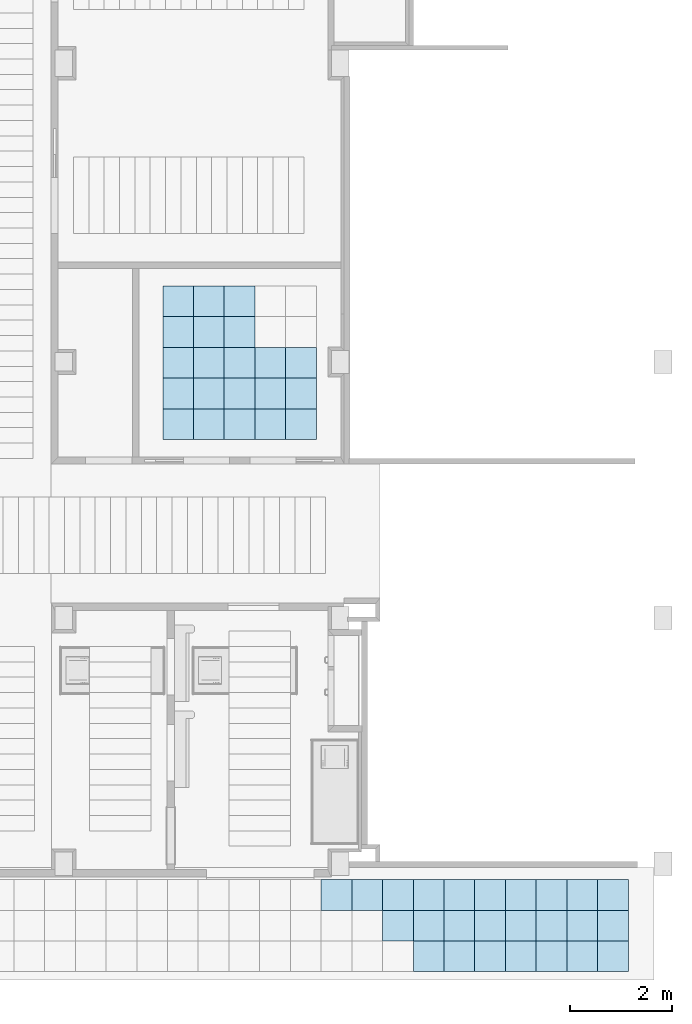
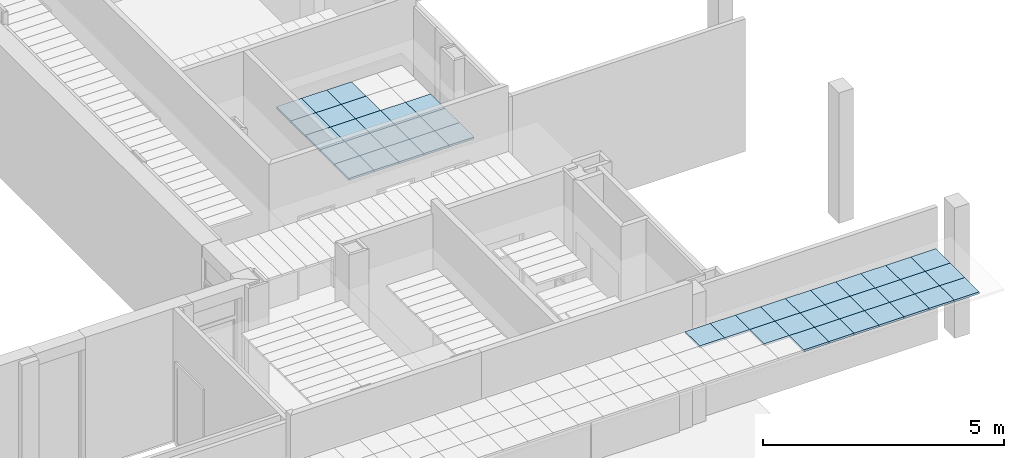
# One storey, part 21 of 60: 46 slabs.
"""IFC2X3 building model written with IfcOpenShell, lengths in millimetres."""

from ifc_helpers import new_model, entity, si_unit, converted_unit, derived_unit, money_unit, direction, frame, origin_with_axes, place, context, subcontext, project, spatial, polyline, outline, extrude, material, layer, layer_set, layer_usage, type_object, element, save


model = new_model("IFC2X3")

# Units and contexts
model_context = context("Model", 3, precision=0.01, world=origin_with_axes(), true_north=direction((0.0, 1.0)))
body_context = subcontext(model_context, "Body", "Model", "MODEL_VIEW")
ifc_project = project(units=[si_unit("LENGTHUNIT", "METRE", prefix="MILLI"), si_unit("AREAUNIT", "SQUARE_METRE"), si_unit("VOLUMEUNIT", "CUBIC_METRE"), converted_unit("PLANEANGLEUNIT", "DEGREE", entity("IfcPlaneAngleMeasure", 0.0174532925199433), si_unit("PLANEANGLEUNIT", "RADIAN"), dimensions=[0, 0, 0, 0, 0, 0, 0]), money_unit("USD"), converted_unit("TIMEUNIT", "Year", entity("IfcTimeMeasure", 31557600.0), si_unit("TIMEUNIT", "SECOND"), dimensions=[0, 0, 1, 0, 0, 0, 0]), si_unit("MASSUNIT", "GRAM", prefix="KILO"), si_unit("THERMODYNAMICTEMPERATUREUNIT", "DEGREE_CELSIUS"), si_unit("LUMINOUSINTENSITYUNIT", "LUMEN"), si_unit("ENERGYUNIT", "JOULE", prefix="MEGA"), derived_unit("THERMALCONDUCTANCEUNIT", [(si_unit("POWERUNIT", "WATT"), 1), (si_unit("LENGTHUNIT", "METRE"), -1), (si_unit("THERMODYNAMICTEMPERATUREUNIT", "KELVIN"), -1)]), derived_unit("SPECIFICHEATCAPACITYUNIT", [(si_unit("ENERGYUNIT", "JOULE"), 1), (si_unit("MASSUNIT", "GRAM", prefix="KILO"), -1), (si_unit("THERMODYNAMICTEMPERATUREUNIT", "KELVIN"), -1)]), derived_unit("MASSDENSITYUNIT", [(si_unit("MASSUNIT", "GRAM", prefix="KILO"), 1), (si_unit("VOLUMEUNIT", "CUBIC_METRE"), -1)])], contexts=[model_context])

# Site, building, storey
site_placement = place(None, origin_with_axes())
site = spatial("IfcSite", under=ifc_project, at=site_placement, Name="Sitio", CompositionType="ELEMENT")
building_placement = place(site_placement, origin_with_axes())
building = spatial("IfcBuilding", under=site, at=building_placement, Name="Construcción", CompositionType="ELEMENT")
storey_placement = place(building_placement, frame((0.0, 0.0, 3650.0), z_axis=(0.0, 0.0, 1.0), x_axis=(1.0, 0.0, 0.0)))
storey = spatial("IfcBuildingStorey", under=building, at=storey_placement, Name="PLANTA 2ª", CompositionType="ELEMENT", Elevation=3650.0)

# Slabs
ifc_material = material(Name="ARQ_CE217_Armstrong 60x60")
ifc_layer = layer(ifc_material, 50.0, ventilated="UNKNOWN")
ifc_layer_set = layer_set([ifc_layer], Name="ARQ_CE217_Armstrong 60x60 50")
ifc_layer_usage_1 = layer_usage(ifc_layer_set, "AXIS3", "NEGATIVE", 50.0)
slab_type = type_object("IfcSlabType", Name="ARQ_CE217_Armstrong 60x60 50", PredefinedType="NOTDEFINED")
slab_1_placement = place(storey_placement, frame((4938.419695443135, -8731.372767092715, 2250.0), z_axis=(0.0, 0.0, 1.0), x_axis=(1.0, 0.0, 0.0)))
element("IfcSlab", 1, at=slab_1_placement, inside=storey, type_object=slab_type, material=ifc_layer_usage_1, Name="SLA - 026", PredefinedType="NOTDEFINED", context=body_context, shape_type="SweptSolid", body=[
    extrude(outline(polyline([(0.0, 0.0), (600.000000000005, 0.0), (600.000000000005, 600.000000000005), (0.0, 600.000000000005), (0.0, 0.0)])), frame((0.0, 0.0, -50.0), z_axis=(0.0, 0.0, 1.0), x_axis=(1.0, 0.0, 0.0)), (0.0, 0.0, 1.0), 50.0),
])
ifc_layer_usage_2 = layer_usage(ifc_layer_set, "AXIS3", "NEGATIVE", 50.0)
slab_2_placement = place(storey_placement, frame((3738.419695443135, -6931.372767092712, 2250.0), z_axis=(0.0, 0.0, 1.0), x_axis=(1.0, 0.0, 0.0)))
element("IfcSlab", 2, at=slab_2_placement, inside=storey, type_object=slab_type, material=ifc_layer_usage_2, Name="SLA - 026", PredefinedType="NOTDEFINED", context=body_context, shape_type="SweptSolid", body=[
    extrude(outline(polyline([(0.0, 0.0), (600.0000000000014, 0.0), (600.0000000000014, 600.0000000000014), (0.0, 600.0000000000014), (0.0, 0.0)])), frame((0.0, 0.0, -50.0), z_axis=(0.0, 0.0, 1.0), x_axis=(1.0, 0.0, 0.0)), (0.0, 0.0, 1.0), 50.0),
])
ifc_layer_usage_3 = layer_usage(ifc_layer_set, "AXIS3", "NEGATIVE", 50.0)
slab_3_placement = place(storey_placement, frame((3138.419695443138, -6931.372767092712, 2250.0), z_axis=(0.0, 0.0, 1.0), x_axis=(1.0, 0.0, 0.0)))
element("IfcSlab", 3, at=slab_3_placement, inside=storey, type_object=slab_type, material=ifc_layer_usage_3, Name="SLA - 026", PredefinedType="NOTDEFINED", context=body_context, shape_type="SweptSolid", body=[
    extrude(outline(polyline([(0.0, 0.0), (600.0000000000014, 0.0), (600.0000000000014, 600.0000000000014), (0.0, 600.0000000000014), (0.0, 0.0)])), frame((0.0, 0.0, -50.0), z_axis=(0.0, 0.0, 1.0), x_axis=(1.0, 0.0, 0.0)), (0.0, 0.0, 1.0), 50.0),
])
ifc_layer_usage_4 = layer_usage(ifc_layer_set, "AXIS3", "NEGATIVE", 50.0)
slab_4_placement = place(storey_placement, frame((4338.419695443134, -8731.372767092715, 2250.0), z_axis=(0.0, 0.0, 1.0), x_axis=(1.0, 0.0, 0.0)))
element("IfcSlab", 4, at=slab_4_placement, inside=storey, type_object=slab_type, material=ifc_layer_usage_4, Name="SLA - 026", PredefinedType="NOTDEFINED", context=body_context, shape_type="SweptSolid", body=[
    extrude(outline(polyline([(0.0, 0.0), (600.0000000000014, 0.0), (600.0000000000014, 600.000000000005), (0.0, 600.000000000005), (0.0, 0.0)])), frame((0.0, 0.0, -50.0), z_axis=(0.0, 0.0, 1.0), x_axis=(1.0, 0.0, 0.0)), (0.0, 0.0, 1.0), 50.0),
])
ifc_layer_usage_5 = layer_usage(ifc_layer_set, "AXIS3", "NEGATIVE", 50.0)
slab_5_placement = place(storey_placement, frame((4338.419695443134, -7531.372767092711, 2250.0), z_axis=(0.0, 0.0, 1.0), x_axis=(1.0, 0.0, 0.0)))
element("IfcSlab", 5, at=slab_5_placement, inside=storey, type_object=slab_type, material=ifc_layer_usage_5, Name="SLA - 026", PredefinedType="NOTDEFINED", context=body_context, shape_type="SweptSolid", body=[
    extrude(outline(polyline([(0.0, 0.0), (600.0000000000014, 0.0), (600.0000000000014, 599.9999999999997), (0.0, 599.9999999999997), (0.0, 0.0)])), frame((0.0, 0.0, -50.0), z_axis=(0.0, 0.0, 1.0), x_axis=(1.0, 0.0, 0.0)), (0.0, 0.0, 1.0), 50.0),
])
ifc_layer_usage_6 = layer_usage(ifc_layer_set, "AXIS3", "NEGATIVE", 50.0)
slab_6_placement = place(storey_placement, frame((4338.419695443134, -8131.37276709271, 2250.0), z_axis=(0.0, 0.0, 1.0), x_axis=(1.0, 0.0, 0.0)))
element("IfcSlab", 6, at=slab_6_placement, inside=storey, type_object=slab_type, material=ifc_layer_usage_6, Name="SLA - 026", PredefinedType="NOTDEFINED", context=body_context, shape_type="SweptSolid", body=[
    extrude(outline(polyline([(0.0, 0.0), (600.0000000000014, 0.0), (600.0000000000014, 599.9999999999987), (0.0, 599.9999999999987), (0.0, 0.0)])), frame((0.0, 0.0, -50.0), z_axis=(0.0, 0.0, 1.0), x_axis=(1.0, 0.0, 0.0)), (0.0, 0.0, 1.0), 50.0),
])
ifc_layer_usage_7 = layer_usage(ifc_layer_set, "AXIS3", "NEGATIVE", 50.0)
slab_7_placement = place(storey_placement, frame((4938.419695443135, -7531.372767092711, 2250.0), z_axis=(0.0, 0.0, 1.0), x_axis=(1.0, 0.0, 0.0)))
element("IfcSlab", 7, at=slab_7_placement, inside=storey, type_object=slab_type, material=ifc_layer_usage_7, Name="SLA - 026", PredefinedType="NOTDEFINED", context=body_context, shape_type="SweptSolid", body=[
    extrude(outline(polyline([(0.0, 0.0), (600.000000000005, 0.0), (600.000000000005, 599.9999999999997), (0.0, 599.9999999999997), (0.0, 0.0)])), frame((0.0, 0.0, -50.0), z_axis=(0.0, 0.0, 1.0), x_axis=(1.0, 0.0, 0.0)), (0.0, 0.0, 1.0), 50.0),
])
ifc_layer_usage_8 = layer_usage(ifc_layer_set, "AXIS3", "NEGATIVE", 50.0)
slab_8_placement = place(storey_placement, frame((4938.419695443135, -8131.37276709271, 2250.0), z_axis=(0.0, 0.0, 1.0), x_axis=(1.0, 0.0, 0.0)))
element("IfcSlab", 8, at=slab_8_placement, inside=storey, type_object=slab_type, material=ifc_layer_usage_8, Name="SLA - 026", PredefinedType="NOTDEFINED", context=body_context, shape_type="SweptSolid", body=[
    extrude(outline(polyline([(0.0, 0.0), (600.000000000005, 0.0), (600.000000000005, 599.9999999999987), (0.0, 599.9999999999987), (0.0, 0.0)])), frame((0.0, 0.0, -50.0), z_axis=(0.0, 0.0, 1.0), x_axis=(1.0, 0.0, 0.0)), (0.0, 0.0, 1.0), 50.0),
])
ifc_layer_usage_9 = layer_usage(ifc_layer_set, "AXIS3", "NEGATIVE", 50.0)
slab_9_placement = place(storey_placement, frame((3138.419695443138, -8731.372767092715, 2250.0), z_axis=(0.0, 0.0, 1.0), x_axis=(1.0, 0.0, 0.0)))
element("IfcSlab", 9, at=slab_9_placement, inside=storey, type_object=slab_type, material=ifc_layer_usage_9, Name="SLA - 026", PredefinedType="NOTDEFINED", context=body_context, shape_type="SweptSolid", body=[
    extrude(outline(polyline([(0.0, 0.0), (600.0000000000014, 0.0), (600.0000000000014, 600.000000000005), (0.0, 600.000000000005), (0.0, 0.0)])), frame((0.0, 0.0, -50.0), z_axis=(0.0, 0.0, 1.0), x_axis=(1.0, 0.0, 0.0)), (0.0, 0.0, 1.0), 50.0),
])
ifc_layer_usage_10 = layer_usage(ifc_layer_set, "AXIS3", "NEGATIVE", 50.0)
slab_10_placement = place(storey_placement, frame((3738.419695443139, -8131.37276709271, 2250.0), z_axis=(0.0, 0.0, 1.0), x_axis=(1.0, 0.0, 0.0)))
element("IfcSlab", 10, at=slab_10_placement, inside=storey, type_object=slab_type, material=ifc_layer_usage_10, Name="SLA - 026", PredefinedType="NOTDEFINED", context=body_context, shape_type="SweptSolid", body=[
    extrude(outline(polyline([(0.0, 0.0), (599.9999999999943, 0.0), (599.9999999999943, 599.9999999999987), (0.0, 599.9999999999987), (0.0, 0.0)])), frame((0.0, 0.0, -50.0), z_axis=(0.0, 0.0, 1.0), x_axis=(1.0, 0.0, 0.0)), (0.0, 0.0, 1.0), 50.0),
])
ifc_layer_usage_11 = layer_usage(ifc_layer_set, "AXIS3", "NEGATIVE", 50.0)
slab_11_placement = place(storey_placement, frame((2538.419695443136, -8131.37276709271, 2250.0), z_axis=(0.0, 0.0, 1.0), x_axis=(1.0, 0.0, 0.0)))
element("IfcSlab", 11, at=slab_11_placement, inside=storey, type_object=slab_type, material=ifc_layer_usage_11, Name="SLA - 026", PredefinedType="NOTDEFINED", context=body_context, shape_type="SweptSolid", body=[
    extrude(outline(polyline([(0.0, 0.0), (600.0000000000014, 0.0), (600.0000000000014, 599.9999999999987), (0.0, 599.9999999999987), (0.0, 0.0)])), frame((0.0, 0.0, -50.0), z_axis=(0.0, 0.0, 1.0), x_axis=(1.0, 0.0, 0.0)), (0.0, 0.0, 1.0), 50.0),
])
ifc_layer_usage_12 = layer_usage(ifc_layer_set, "AXIS3", "NEGATIVE", 50.0)
slab_12_placement = place(storey_placement, frame((3138.419695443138, -8131.37276709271, 2250.0), z_axis=(0.0, 0.0, 1.0), x_axis=(1.0, 0.0, 0.0)))
element("IfcSlab", 12, at=slab_12_placement, inside=storey, type_object=slab_type, material=ifc_layer_usage_12, Name="SLA - 026", PredefinedType="NOTDEFINED", context=body_context, shape_type="SweptSolid", body=[
    extrude(outline(polyline([(0.0, 0.0), (600.0000000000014, 0.0), (600.0000000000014, 599.9999999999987), (0.0, 599.9999999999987), (0.0, 0.0)])), frame((0.0, 0.0, -50.0), z_axis=(0.0, 0.0, 1.0), x_axis=(1.0, 0.0, 0.0)), (0.0, 0.0, 1.0), 50.0),
])
ifc_layer_usage_13 = layer_usage(ifc_layer_set, "AXIS3", "NEGATIVE", 50.0)
slab_13_placement = place(storey_placement, frame((2538.419695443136, -6931.372767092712, 2250.0), z_axis=(0.0, 0.0, 1.0), x_axis=(1.0, 0.0, 0.0)))
element("IfcSlab", 13, at=slab_13_placement, inside=storey, type_object=slab_type, material=ifc_layer_usage_13, Name="SLA - 026", PredefinedType="NOTDEFINED", context=body_context, shape_type="SweptSolid", body=[
    extrude(outline(polyline([(0.0, 0.0), (600.0000000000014, 0.0), (600.0000000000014, 600.0000000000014), (0.0, 600.0000000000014), (0.0, 0.0)])), frame((0.0, 0.0, -50.0), z_axis=(0.0, 0.0, 1.0), x_axis=(1.0, 0.0, 0.0)), (0.0, 0.0, 1.0), 50.0),
])
ifc_layer_usage_14 = layer_usage(ifc_layer_set, "AXIS3", "NEGATIVE", 50.0)
slab_14_placement = place(storey_placement, frame((2538.419695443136, -7531.372767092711, 2250.0), z_axis=(0.0, 0.0, 1.0), x_axis=(1.0, 0.0, 0.0)))
element("IfcSlab", 14, at=slab_14_placement, inside=storey, type_object=slab_type, material=ifc_layer_usage_14, Name="SLA - 026", PredefinedType="NOTDEFINED", context=body_context, shape_type="SweptSolid", body=[
    extrude(outline(polyline([(0.0, 0.0), (600.0000000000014, 0.0), (600.0000000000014, 599.9999999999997), (0.0, 599.9999999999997), (0.0, 0.0)])), frame((0.0, 0.0, -50.0), z_axis=(0.0, 0.0, 1.0), x_axis=(1.0, 0.0, 0.0)), (0.0, 0.0, 1.0), 50.0),
])
ifc_layer_usage_15 = layer_usage(ifc_layer_set, "AXIS3", "NEGATIVE", 50.0)
slab_15_placement = place(storey_placement, frame((2538.419695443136, -8731.372767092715, 2250.0), z_axis=(0.0, 0.0, 1.0), x_axis=(1.0, 0.0, 0.0)))
element("IfcSlab", 15, at=slab_15_placement, inside=storey, type_object=slab_type, material=ifc_layer_usage_15, Name="SLA - 026", PredefinedType="NOTDEFINED", context=body_context, shape_type="SweptSolid", body=[
    extrude(outline(polyline([(0.0, 0.0), (600.0000000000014, 0.0), (600.0000000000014, 600.000000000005), (0.0, 600.000000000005), (0.0, 0.0)])), frame((0.0, 0.0, -50.0), z_axis=(0.0, 0.0, 1.0), x_axis=(1.0, 0.0, 0.0)), (0.0, 0.0, 1.0), 50.0),
])
ifc_layer_usage_16 = layer_usage(ifc_layer_set, "AXIS3", "NEGATIVE", 50.0)
slab_16_placement = place(storey_placement, frame((3138.419695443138, -7531.372767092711, 2250.0), z_axis=(0.0, 0.0, 1.0), x_axis=(1.0, 0.0, 0.0)))
element("IfcSlab", 16, at=slab_16_placement, inside=storey, type_object=slab_type, material=ifc_layer_usage_16, Name="SLA - 026", PredefinedType="NOTDEFINED", context=body_context, shape_type="SweptSolid", body=[
    extrude(outline(polyline([(0.0, 0.0), (600.0000000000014, 0.0), (600.0000000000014, 599.9999999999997), (0.0, 599.9999999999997), (0.0, 0.0)])), frame((0.0, 0.0, -50.0), z_axis=(0.0, 0.0, 1.0), x_axis=(1.0, 0.0, 0.0)), (0.0, 0.0, 1.0), 50.0),
])
ifc_layer_usage_17 = layer_usage(ifc_layer_set, "AXIS3", "NEGATIVE", 50.0)
slab_17_placement = place(storey_placement, frame((3738.419695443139, -7531.372767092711, 2250.0), z_axis=(0.0, 0.0, 1.0), x_axis=(1.0, 0.0, 0.0)))
element("IfcSlab", 17, at=slab_17_placement, inside=storey, type_object=slab_type, material=ifc_layer_usage_17, Name="SLA - 026", PredefinedType="NOTDEFINED", context=body_context, shape_type="SweptSolid", body=[
    extrude(outline(polyline([(0.0, 0.0), (599.9999999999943, 0.0), (599.9999999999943, 599.9999999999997), (0.0, 599.9999999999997), (0.0, 0.0)])), frame((0.0, 0.0, -50.0), z_axis=(0.0, 0.0, 1.0), x_axis=(1.0, 0.0, 0.0)), (0.0, 0.0, 1.0), 50.0),
])
ifc_layer_usage_18 = layer_usage(ifc_layer_set, "AXIS3", "NEGATIVE", 50.0)
slab_18_placement = place(storey_placement, frame((3738.419695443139, -8731.372767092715, 2250.0), z_axis=(0.0, 0.0, 1.0), x_axis=(1.0, 0.0, 0.0)))
element("IfcSlab", 18, at=slab_18_placement, inside=storey, type_object=slab_type, material=ifc_layer_usage_18, Name="SLA - 026", PredefinedType="NOTDEFINED", context=body_context, shape_type="SweptSolid", body=[
    extrude(outline(polyline([(0.0, 0.0), (599.9999999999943, 0.0), (599.9999999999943, 600.000000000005), (0.0, 600.000000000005), (0.0, 0.0)])), frame((0.0, 0.0, -50.0), z_axis=(0.0, 0.0, 1.0), x_axis=(1.0, 0.0, 0.0)), (0.0, 0.0, 1.0), 50.0),
])
ifc_layer_usage_19 = layer_usage(ifc_layer_set, "AXIS3", "NEGATIVE", 50.0)
slab_19_placement = place(storey_placement, frame((5630.296716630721, -17921.97576450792, 2500.0), z_axis=(0.0, 0.0, 1.0), x_axis=(1.0, 0.0, 0.0)))
element("IfcSlab", 19, at=slab_19_placement, inside=storey, type_object=slab_type, material=ifc_layer_usage_19, Name="SLA - 026", PredefinedType="NOTDEFINED", context=body_context, shape_type="SweptSolid", body=[
    extrude(outline(polyline([(0.0, 0.0), (600.0000000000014, 0.0), (600.0000000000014, 600.0000000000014), (0.0, 600.0000000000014), (0.0, 0.0)])), frame((0.0, 0.0, -50.0), z_axis=(0.0, 0.0, 1.0), x_axis=(1.0, 0.0, 0.0)), (0.0, 0.0, 1.0), 50.0),
])
ifc_layer_usage_20 = layer_usage(ifc_layer_set, "AXIS3", "NEGATIVE", 50.0)
slab_20_placement = place(storey_placement, frame((6830.296716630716, -18521.97576450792, 2500.0), z_axis=(0.0, 0.0, 1.0), x_axis=(1.0, 0.0, 0.0)))
element("IfcSlab", 20, at=slab_20_placement, inside=storey, type_object=slab_type, material=ifc_layer_usage_20, Name="SLA - 026", PredefinedType="NOTDEFINED", context=body_context, shape_type="SweptSolid", body=[
    extrude(outline(polyline([(0.0, 0.0), (600.0000000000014, 0.0), (600.0000000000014, 600.0000000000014), (0.0, 600.0000000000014), (0.0, 0.0)])), frame((0.0, 0.0, -50.0), z_axis=(0.0, 0.0, 1.0), x_axis=(1.0, 0.0, 0.0)), (0.0, 0.0, 1.0), 50.0),
])
ifc_layer_usage_21 = layer_usage(ifc_layer_set, "AXIS3", "NEGATIVE", 50.0)
slab_21_placement = place(storey_placement, frame((6830.296716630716, -17921.97576450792, 2500.0), z_axis=(0.0, 0.0, 1.0), x_axis=(1.0, 0.0, 0.0)))
element("IfcSlab", 21, at=slab_21_placement, inside=storey, type_object=slab_type, material=ifc_layer_usage_21, Name="SLA - 026", PredefinedType="NOTDEFINED", context=body_context, shape_type="SweptSolid", body=[
    extrude(outline(polyline([(0.0, 0.0), (600.0000000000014, 0.0), (600.0000000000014, 600.0000000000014), (0.0, 600.0000000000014), (0.0, 0.0)])), frame((0.0, 0.0, -50.0), z_axis=(0.0, 0.0, 1.0), x_axis=(1.0, 0.0, 0.0)), (0.0, 0.0, 1.0), 50.0),
])
ifc_layer_usage_22 = layer_usage(ifc_layer_set, "AXIS3", "NEGATIVE", 50.0)
slab_22_placement = place(storey_placement, frame((7430.296716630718, -19121.97576450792, 2500.0), z_axis=(0.0, 0.0, 1.0), x_axis=(1.0, 0.0, 0.0)))
element("IfcSlab", 22, at=slab_22_placement, inside=storey, type_object=slab_type, material=ifc_layer_usage_22, Name="SLA - 026", PredefinedType="NOTDEFINED", context=body_context, shape_type="SweptSolid", body=[
    extrude(outline(polyline([(0.0, 0.0), (600.0000000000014, 0.0), (600.0000000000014, 600.0000000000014), (0.0, 600.0000000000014), (0.0, 0.0)])), frame((0.0, 0.0, -50.0), z_axis=(0.0, 0.0, 1.0), x_axis=(1.0, 0.0, 0.0)), (0.0, 0.0, 1.0), 50.0),
])
ifc_layer_usage_23 = layer_usage(ifc_layer_set, "AXIS3", "NEGATIVE", 50.0)
slab_23_placement = place(storey_placement, frame((7430.296716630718, -18521.97576450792, 2500.0), z_axis=(0.0, 0.0, 1.0), x_axis=(1.0, 0.0, 0.0)))
element("IfcSlab", 23, at=slab_23_placement, inside=storey, type_object=slab_type, material=ifc_layer_usage_23, Name="SLA - 026", PredefinedType="NOTDEFINED", context=body_context, shape_type="SweptSolid", body=[
    extrude(outline(polyline([(0.0, 0.0), (600.0000000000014, 0.0), (600.0000000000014, 600.0000000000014), (0.0, 600.0000000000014), (0.0, 0.0)])), frame((0.0, 0.0, -50.0), z_axis=(0.0, 0.0, 1.0), x_axis=(1.0, 0.0, 0.0)), (0.0, 0.0, 1.0), 50.0),
])
ifc_layer_usage_24 = layer_usage(ifc_layer_set, "AXIS3", "NEGATIVE", 50.0)
slab_24_placement = place(storey_placement, frame((7430.296716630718, -17921.97576450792, 2500.0), z_axis=(0.0, 0.0, 1.0), x_axis=(1.0, 0.0, 0.0)))
element("IfcSlab", 24, at=slab_24_placement, inside=storey, type_object=slab_type, material=ifc_layer_usage_24, Name="SLA - 026", PredefinedType="NOTDEFINED", context=body_context, shape_type="SweptSolid", body=[
    extrude(outline(polyline([(0.0, 0.0), (600.0000000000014, 0.0), (600.0000000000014, 600.0000000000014), (0.0, 600.0000000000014), (0.0, 0.0)])), frame((0.0, 0.0, -50.0), z_axis=(0.0, 0.0, 1.0), x_axis=(1.0, 0.0, 0.0)), (0.0, 0.0, 1.0), 50.0),
])
ifc_layer_usage_25 = layer_usage(ifc_layer_set, "AXIS3", "NEGATIVE", 50.0)
slab_25_placement = place(storey_placement, frame((6230.296716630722, -17921.97576450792, 2500.0), z_axis=(0.0, 0.0, 1.0), x_axis=(1.0, 0.0, 0.0)))
element("IfcSlab", 25, at=slab_25_placement, inside=storey, type_object=slab_type, material=ifc_layer_usage_25, Name="SLA - 026", PredefinedType="NOTDEFINED", context=body_context, shape_type="SweptSolid", body=[
    extrude(outline(polyline([(0.0, 0.0), (600.0000000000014, 0.0), (600.0000000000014, 600.0000000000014), (0.0, 600.0000000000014), (0.0, 0.0)])), frame((0.0, 0.0, -50.0), z_axis=(0.0, 0.0, 1.0), x_axis=(1.0, 0.0, 0.0)), (0.0, 0.0, 1.0), 50.0),
])
ifc_layer_usage_26 = layer_usage(ifc_layer_set, "AXIS3", "NEGATIVE", 50.0)
slab_26_placement = place(storey_placement, frame((8030.296716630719, -19121.97576450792, 2500.0), z_axis=(0.0, 0.0, 1.0), x_axis=(1.0, 0.0, 0.0)))
element("IfcSlab", 26, at=slab_26_placement, inside=storey, type_object=slab_type, material=ifc_layer_usage_26, Name="SLA - 026", PredefinedType="NOTDEFINED", context=body_context, shape_type="SweptSolid", body=[
    extrude(outline(polyline([(0.0, 0.0), (600.0000000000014, 0.0), (600.0000000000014, 600.0000000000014), (0.0, 600.0000000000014), (0.0, 0.0)])), frame((0.0, 0.0, -50.0), z_axis=(0.0, 0.0, 1.0), x_axis=(1.0, 0.0, 0.0)), (0.0, 0.0, 1.0), 50.0),
])
ifc_layer_usage_27 = layer_usage(ifc_layer_set, "AXIS3", "NEGATIVE", 50.0)
slab_27_placement = place(storey_placement, frame((8030.296716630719, -18521.97576450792, 2500.0), z_axis=(0.0, 0.0, 1.0), x_axis=(1.0, 0.0, 0.0)))
element("IfcSlab", 27, at=slab_27_placement, inside=storey, type_object=slab_type, material=ifc_layer_usage_27, Name="SLA - 026", PredefinedType="NOTDEFINED", context=body_context, shape_type="SweptSolid", body=[
    extrude(outline(polyline([(0.0, 0.0), (600.0000000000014, 0.0), (600.0000000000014, 600.0000000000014), (0.0, 600.0000000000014), (0.0, 0.0)])), frame((0.0, 0.0, -50.0), z_axis=(0.0, 0.0, 1.0), x_axis=(1.0, 0.0, 0.0)), (0.0, 0.0, 1.0), 50.0),
])
ifc_layer_usage_28 = layer_usage(ifc_layer_set, "AXIS3", "NEGATIVE", 50.0)
slab_28_placement = place(storey_placement, frame((8030.296716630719, -17921.97576450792, 2500.0), z_axis=(0.0, 0.0, 1.0), x_axis=(1.0, 0.0, 0.0)))
element("IfcSlab", 28, at=slab_28_placement, inside=storey, type_object=slab_type, material=ifc_layer_usage_28, Name="SLA - 026", PredefinedType="NOTDEFINED", context=body_context, shape_type="SweptSolid", body=[
    extrude(outline(polyline([(0.0, 0.0), (600.0000000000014, 0.0), (600.0000000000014, 600.0000000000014), (0.0, 600.0000000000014), (0.0, 0.0)])), frame((0.0, 0.0, -50.0), z_axis=(0.0, 0.0, 1.0), x_axis=(1.0, 0.0, 0.0)), (0.0, 0.0, 1.0), 50.0),
])
ifc_layer_usage_29 = layer_usage(ifc_layer_set, "AXIS3", "NEGATIVE", 50.0)
slab_29_placement = place(storey_placement, frame((8630.29671663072, -18521.97576450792, 2500.0), z_axis=(0.0, 0.0, 1.0), x_axis=(1.0, 0.0, 0.0)))
element("IfcSlab", 29, at=slab_29_placement, inside=storey, type_object=slab_type, material=ifc_layer_usage_29, Name="SLA - 026", PredefinedType="NOTDEFINED", context=body_context, shape_type="SweptSolid", body=[
    extrude(outline(polyline([(0.0, 0.0), (600.0000000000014, 0.0), (600.0000000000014, 600.0000000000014), (0.0, 600.0000000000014), (0.0, 0.0)])), frame((0.0, 0.0, -50.0), z_axis=(0.0, 0.0, 1.0), x_axis=(1.0, 0.0, 0.0)), (0.0, 0.0, 1.0), 50.0),
])
ifc_layer_usage_30 = layer_usage(ifc_layer_set, "AXIS3", "NEGATIVE", 50.0)
slab_30_placement = place(storey_placement, frame((8630.29671663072, -19121.97576450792, 2500.0), z_axis=(0.0, 0.0, 1.0), x_axis=(1.0, 0.0, 0.0)))
element("IfcSlab", 30, at=slab_30_placement, inside=storey, type_object=slab_type, material=ifc_layer_usage_30, Name="SLA - 026", PredefinedType="NOTDEFINED", context=body_context, shape_type="SweptSolid", body=[
    extrude(outline(polyline([(0.0, 0.0), (600.0000000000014, 0.0), (600.0000000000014, 600.0000000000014), (0.0, 600.0000000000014), (0.0, 0.0)])), frame((0.0, 0.0, -50.0), z_axis=(0.0, 0.0, 1.0), x_axis=(1.0, 0.0, 0.0)), (0.0, 0.0, 1.0), 50.0),
])
ifc_layer_usage_31 = layer_usage(ifc_layer_set, "AXIS3", "NEGATIVE", 50.0)
slab_31_placement = place(storey_placement, frame((9230.296716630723, -19121.97576450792, 2500.0), z_axis=(0.0, 0.0, 1.0), x_axis=(1.0, 0.0, 0.0)))
element("IfcSlab", 31, at=slab_31_placement, inside=storey, type_object=slab_type, material=ifc_layer_usage_31, Name="SLA - 026", PredefinedType="NOTDEFINED", context=body_context, shape_type="SweptSolid", body=[
    extrude(outline(polyline([(0.0, 0.0), (600.0000000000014, 0.0), (600.0000000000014, 600.0000000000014), (0.0, 600.0000000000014), (0.0, 0.0)])), frame((0.0, 0.0, -50.0), z_axis=(0.0, 0.0, 1.0), x_axis=(1.0, 0.0, 0.0)), (0.0, 0.0, 1.0), 50.0),
])
ifc_layer_usage_32 = layer_usage(ifc_layer_set, "AXIS3", "NEGATIVE", 50.0)
slab_32_placement = place(storey_placement, frame((9230.296716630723, -18521.97576450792, 2500.0), z_axis=(0.0, 0.0, 1.0), x_axis=(1.0, 0.0, 0.0)))
element("IfcSlab", 32, at=slab_32_placement, inside=storey, type_object=slab_type, material=ifc_layer_usage_32, Name="SLA - 026", PredefinedType="NOTDEFINED", context=body_context, shape_type="SweptSolid", body=[
    extrude(outline(polyline([(0.0, 0.0), (600.0000000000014, 0.0), (600.0000000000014, 600.0000000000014), (0.0, 600.0000000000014), (0.0, 0.0)])), frame((0.0, 0.0, -50.0), z_axis=(0.0, 0.0, 1.0), x_axis=(1.0, 0.0, 0.0)), (0.0, 0.0, 1.0), 50.0),
])
ifc_layer_usage_33 = layer_usage(ifc_layer_set, "AXIS3", "NEGATIVE", 50.0)
slab_33_placement = place(storey_placement, frame((8630.29671663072, -17921.97576450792, 2500.0), z_axis=(0.0, 0.0, 1.0), x_axis=(1.0, 0.0, 0.0)))
element("IfcSlab", 33, at=slab_33_placement, inside=storey, type_object=slab_type, material=ifc_layer_usage_33, Name="SLA - 026", PredefinedType="NOTDEFINED", context=body_context, shape_type="SweptSolid", body=[
    extrude(outline(polyline([(0.0, 0.0), (600.0000000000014, 0.0), (600.0000000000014, 600.0000000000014), (0.0, 600.0000000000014), (0.0, 0.0)])), frame((0.0, 0.0, -50.0), z_axis=(0.0, 0.0, 1.0), x_axis=(1.0, 0.0, 0.0)), (0.0, 0.0, 1.0), 50.0),
])
ifc_layer_usage_34 = layer_usage(ifc_layer_set, "AXIS3", "NEGATIVE", 50.0)
slab_34_placement = place(storey_placement, frame((9230.296716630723, -17921.97576450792, 2500.0), z_axis=(0.0, 0.0, 1.0), x_axis=(1.0, 0.0, 0.0)))
element("IfcSlab", 34, at=slab_34_placement, inside=storey, type_object=slab_type, material=ifc_layer_usage_34, Name="SLA - 026", PredefinedType="NOTDEFINED", context=body_context, shape_type="SweptSolid", body=[
    extrude(outline(polyline([(0.0, 0.0), (600.0000000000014, 0.0), (600.0000000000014, 600.0000000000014), (0.0, 600.0000000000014), (0.0, 0.0)])), frame((0.0, 0.0, -50.0), z_axis=(0.0, 0.0, 1.0), x_axis=(1.0, 0.0, 0.0)), (0.0, 0.0, 1.0), 50.0),
])
ifc_layer_usage_35 = layer_usage(ifc_layer_set, "AXIS3", "NEGATIVE", 50.0)
slab_35_placement = place(storey_placement, frame((9830.296716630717, -19121.97576450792, 2500.0), z_axis=(0.0, 0.0, 1.0), x_axis=(1.0, 0.0, 0.0)))
element("IfcSlab", 35, at=slab_35_placement, inside=storey, type_object=slab_type, material=ifc_layer_usage_35, Name="SLA - 026", PredefinedType="NOTDEFINED", context=body_context, shape_type="SweptSolid", body=[
    extrude(outline(polyline([(0.0, 0.0), (600.0000000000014, 0.0), (600.0000000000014, 600.0000000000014), (0.0, 600.0000000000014), (0.0, 0.0)])), frame((0.0, 0.0, -50.0), z_axis=(0.0, 0.0, 1.0), x_axis=(1.0, 0.0, 0.0)), (0.0, 0.0, 1.0), 50.0),
])
ifc_layer_usage_36 = layer_usage(ifc_layer_set, "AXIS3", "NEGATIVE", 50.0)
slab_36_placement = place(storey_placement, frame((9830.296716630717, -18521.97576450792, 2500.0), z_axis=(0.0, 0.0, 1.0), x_axis=(1.0, 0.0, 0.0)))
element("IfcSlab", 36, at=slab_36_placement, inside=storey, type_object=slab_type, material=ifc_layer_usage_36, Name="SLA - 026", PredefinedType="NOTDEFINED", context=body_context, shape_type="SweptSolid", body=[
    extrude(outline(polyline([(0.0, 0.0), (600.0000000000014, 0.0), (600.0000000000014, 600.0000000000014), (0.0, 600.0000000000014), (0.0, 0.0)])), frame((0.0, 0.0, -50.0), z_axis=(0.0, 0.0, 1.0), x_axis=(1.0, 0.0, 0.0)), (0.0, 0.0, 1.0), 50.0),
])
ifc_layer_usage_37 = layer_usage(ifc_layer_set, "AXIS3", "NEGATIVE", 50.0)
slab_37_placement = place(storey_placement, frame((10430.29671663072, -19121.97576450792, 2500.0), z_axis=(0.0, 0.0, 1.0), x_axis=(1.0, 0.0, 0.0)))
element("IfcSlab", 37, at=slab_37_placement, inside=storey, type_object=slab_type, material=ifc_layer_usage_37, Name="SLA - 026", PredefinedType="NOTDEFINED", context=body_context, shape_type="SweptSolid", body=[
    extrude(outline(polyline([(0.0, 0.0), (600.0000000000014, 0.0), (600.0000000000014, 600.0000000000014), (0.0, 600.0000000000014), (0.0, 0.0)])), frame((0.0, 0.0, -50.0), z_axis=(0.0, 0.0, 1.0), x_axis=(1.0, 0.0, 0.0)), (0.0, 0.0, 1.0), 50.0),
])
ifc_layer_usage_38 = layer_usage(ifc_layer_set, "AXIS3", "NEGATIVE", 50.0)
slab_38_placement = place(storey_placement, frame((9830.296716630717, -17921.97576450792, 2500.0), z_axis=(0.0, 0.0, 1.0), x_axis=(1.0, 0.0, 0.0)))
element("IfcSlab", 38, at=slab_38_placement, inside=storey, type_object=slab_type, material=ifc_layer_usage_38, Name="SLA - 026", PredefinedType="NOTDEFINED", context=body_context, shape_type="SweptSolid", body=[
    extrude(outline(polyline([(0.0, 0.0), (600.0000000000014, 0.0), (600.0000000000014, 600.0000000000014), (0.0, 600.0000000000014), (0.0, 0.0)])), frame((0.0, 0.0, -50.0), z_axis=(0.0, 0.0, 1.0), x_axis=(1.0, 0.0, 0.0)), (0.0, 0.0, 1.0), 50.0),
])
ifc_layer_usage_39 = layer_usage(ifc_layer_set, "AXIS3", "NEGATIVE", 50.0)
slab_39_placement = place(storey_placement, frame((10430.29671663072, -18521.97576450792, 2500.0), z_axis=(0.0, 0.0, 1.0), x_axis=(1.0, 0.0, 0.0)))
element("IfcSlab", 39, at=slab_39_placement, inside=storey, type_object=slab_type, material=ifc_layer_usage_39, Name="SLA - 026", PredefinedType="NOTDEFINED", context=body_context, shape_type="SweptSolid", body=[
    extrude(outline(polyline([(0.0, 0.0), (600.0000000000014, 0.0), (600.0000000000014, 600.0000000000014), (0.0, 600.0000000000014), (0.0, 0.0)])), frame((0.0, 0.0, -50.0), z_axis=(0.0, 0.0, 1.0), x_axis=(1.0, 0.0, 0.0)), (0.0, 0.0, 1.0), 50.0),
])
ifc_layer_usage_40 = layer_usage(ifc_layer_set, "AXIS3", "NEGATIVE", 50.0)
slab_40_placement = place(storey_placement, frame((10430.29671663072, -17921.97576450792, 2500.0), z_axis=(0.0, 0.0, 1.0), x_axis=(1.0, 0.0, 0.0)))
element("IfcSlab", 40, at=slab_40_placement, inside=storey, type_object=slab_type, material=ifc_layer_usage_40, Name="SLA - 026", PredefinedType="NOTDEFINED", context=body_context, shape_type="SweptSolid", body=[
    extrude(outline(polyline([(0.0, 0.0), (600.0000000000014, 0.0), (600.0000000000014, 600.0000000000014), (0.0, 600.0000000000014), (0.0, 0.0)])), frame((0.0, 0.0, -50.0), z_axis=(0.0, 0.0, 1.0), x_axis=(1.0, 0.0, 0.0)), (0.0, 0.0, 1.0), 50.0),
])
ifc_layer_usage_41 = layer_usage(ifc_layer_set, "AXIS3", "NEGATIVE", 50.0)
slab_41_placement = place(storey_placement, frame((11030.29671663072, -19121.97576450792, 2500.0), z_axis=(0.0, 0.0, 1.0), x_axis=(1.0, 0.0, 0.0)))
element("IfcSlab", 41, at=slab_41_placement, inside=storey, type_object=slab_type, material=ifc_layer_usage_41, Name="SLA - 026", PredefinedType="NOTDEFINED", context=body_context, shape_type="SweptSolid", body=[
    extrude(outline(polyline([(0.0, 0.0), (600.0000000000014, 0.0), (600.0000000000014, 600.0000000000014), (0.0, 600.0000000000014), (0.0, 0.0)])), frame((0.0, 0.0, -50.0), z_axis=(0.0, 0.0, 1.0), x_axis=(1.0, 0.0, 0.0)), (0.0, 0.0, 1.0), 50.0),
])
ifc_layer_usage_42 = layer_usage(ifc_layer_set, "AXIS3", "NEGATIVE", 50.0)
slab_42_placement = place(storey_placement, frame((11030.29671663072, -18521.97576450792, 2500.0), z_axis=(0.0, 0.0, 1.0), x_axis=(1.0, 0.0, 0.0)))
element("IfcSlab", 42, at=slab_42_placement, inside=storey, type_object=slab_type, material=ifc_layer_usage_42, Name="SLA - 026", PredefinedType="NOTDEFINED", context=body_context, shape_type="SweptSolid", body=[
    extrude(outline(polyline([(0.0, 0.0), (600.0000000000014, 0.0), (600.0000000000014, 600.0000000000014), (0.0, 600.0000000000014), (0.0, 0.0)])), frame((0.0, 0.0, -50.0), z_axis=(0.0, 0.0, 1.0), x_axis=(1.0, 0.0, 0.0)), (0.0, 0.0, 1.0), 50.0),
])
ifc_layer_usage_43 = layer_usage(ifc_layer_set, "AXIS3", "NEGATIVE", 50.0)
slab_43_placement = place(storey_placement, frame((11030.29671663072, -17921.97576450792, 2500.0), z_axis=(0.0, 0.0, 1.0), x_axis=(1.0, 0.0, 0.0)))
element("IfcSlab", 43, at=slab_43_placement, inside=storey, type_object=slab_type, material=ifc_layer_usage_43, Name="SLA - 026", PredefinedType="NOTDEFINED", context=body_context, shape_type="SweptSolid", body=[
    extrude(outline(polyline([(0.0, 0.0), (600.0000000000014, 0.0), (600.0000000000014, 600.0000000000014), (0.0, 600.0000000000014), (0.0, 0.0)])), frame((0.0, 0.0, -50.0), z_axis=(0.0, 0.0, 1.0), x_axis=(1.0, 0.0, 0.0)), (0.0, 0.0, 1.0), 50.0),
])
ifc_layer_usage_44 = layer_usage(ifc_layer_set, "AXIS3", "NEGATIVE", 50.0)
slab_44_placement = place(storey_placement, frame((2538.419695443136, -6331.37276709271, 2250.0), z_axis=(0.0, 0.0, 1.0), x_axis=(1.0, 0.0, 0.0)))
element("IfcSlab", 44, at=slab_44_placement, inside=storey, type_object=slab_type, material=ifc_layer_usage_44, Name="SLA - 026", PredefinedType="NOTDEFINED", context=body_context, shape_type="SweptSolid", body=[
    extrude(outline(polyline([(0.0, 0.0), (600.0000000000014, 0.0), (600.0000000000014, 600.0000000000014), (0.0, 600.0000000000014), (0.0, 0.0)])), frame((0.0, 0.0, -50.0), z_axis=(0.0, 0.0, 1.0), x_axis=(1.0, 0.0, 0.0)), (0.0, 0.0, 1.0), 50.0),
])
ifc_layer_usage_45 = layer_usage(ifc_layer_set, "AXIS3", "NEGATIVE", 50.0)
slab_45_placement = place(storey_placement, frame((3138.419695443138, -6331.37276709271, 2250.0), z_axis=(0.0, 0.0, 1.0), x_axis=(1.0, 0.0, 0.0)))
element("IfcSlab", 45, at=slab_45_placement, inside=storey, type_object=slab_type, material=ifc_layer_usage_45, Name="SLA - 026", PredefinedType="NOTDEFINED", context=body_context, shape_type="SweptSolid", body=[
    extrude(outline(polyline([(0.0, 0.0), (600.0000000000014, 0.0), (600.0000000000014, 600.0000000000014), (0.0, 600.0000000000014), (0.0, 0.0)])), frame((0.0, 0.0, -50.0), z_axis=(0.0, 0.0, 1.0), x_axis=(1.0, 0.0, 0.0)), (0.0, 0.0, 1.0), 50.0),
])
ifc_layer_usage_46 = layer_usage(ifc_layer_set, "AXIS3", "NEGATIVE", 50.0)
slab_46_placement = place(storey_placement, frame((3738.419695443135, -6331.37276709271, 2250.0), z_axis=(0.0, 0.0, 1.0), x_axis=(1.0, 0.0, 0.0)))
element("IfcSlab", 46, at=slab_46_placement, inside=storey, type_object=slab_type, material=ifc_layer_usage_46, Name="SLA - 026", PredefinedType="NOTDEFINED", context=body_context, shape_type="SweptSolid", body=[
    extrude(outline(polyline([(0.0, 0.0), (600.0000000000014, 0.0), (600.0000000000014, 600.0000000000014), (0.0, 600.0000000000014), (0.0, 0.0)])), frame((0.0, 0.0, -50.0), z_axis=(0.0, 0.0, 1.0), x_axis=(1.0, 0.0, 0.0)), (0.0, 0.0, 1.0), 50.0),
])

save(model, "model.ifc")
